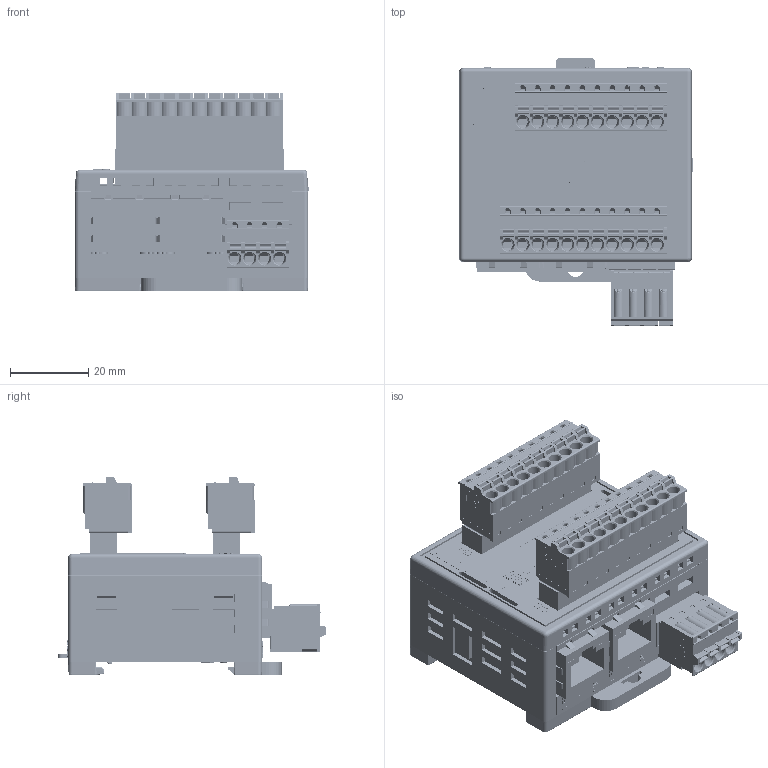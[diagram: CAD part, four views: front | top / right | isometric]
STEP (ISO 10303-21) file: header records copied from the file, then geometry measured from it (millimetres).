
FILE_DESCRIPTION((''),'2;1');
FILE_NAME('CTCBP0FW','2026-05-11T14:47:24',('gijyu181'),(''),'CREO PARAMETRIC BY PTC INC, 2018050','CREO PARAMETRIC BY PTC INC, 2018050','');
FILE_SCHEMA(('CONFIG_CONTROL_DESIGN','SHAPE_APPEARANCE_LAYERS_GROUPS'));
Products named in the file (1): CTCBP0FW
Bounding box: 59.75 x 68.55 x 50.7 mm (x, y, z)
Volume: 71057.7 mm3; surface area: 53375.6 mm2
Topology: 1 solids, 53 shells, 10026 faces, 28042 edges, 18442 vertices
Faces by surface type: plane 7249, cylinder 1598, extrusion 711, cone 274, sphere 94, torus 76, bspline 24
Entity records: 436434 total; most frequent: CARTESIAN_POINT 81325, ORIENTED_EDGE 54774, DIRECTION 47663, EDGE_CURVE 28028, VECTOR 22695, PRESENTATION_STYLE_ASSIGNMENT 22075, LINE 21984, STYLED_ITEM 18849
